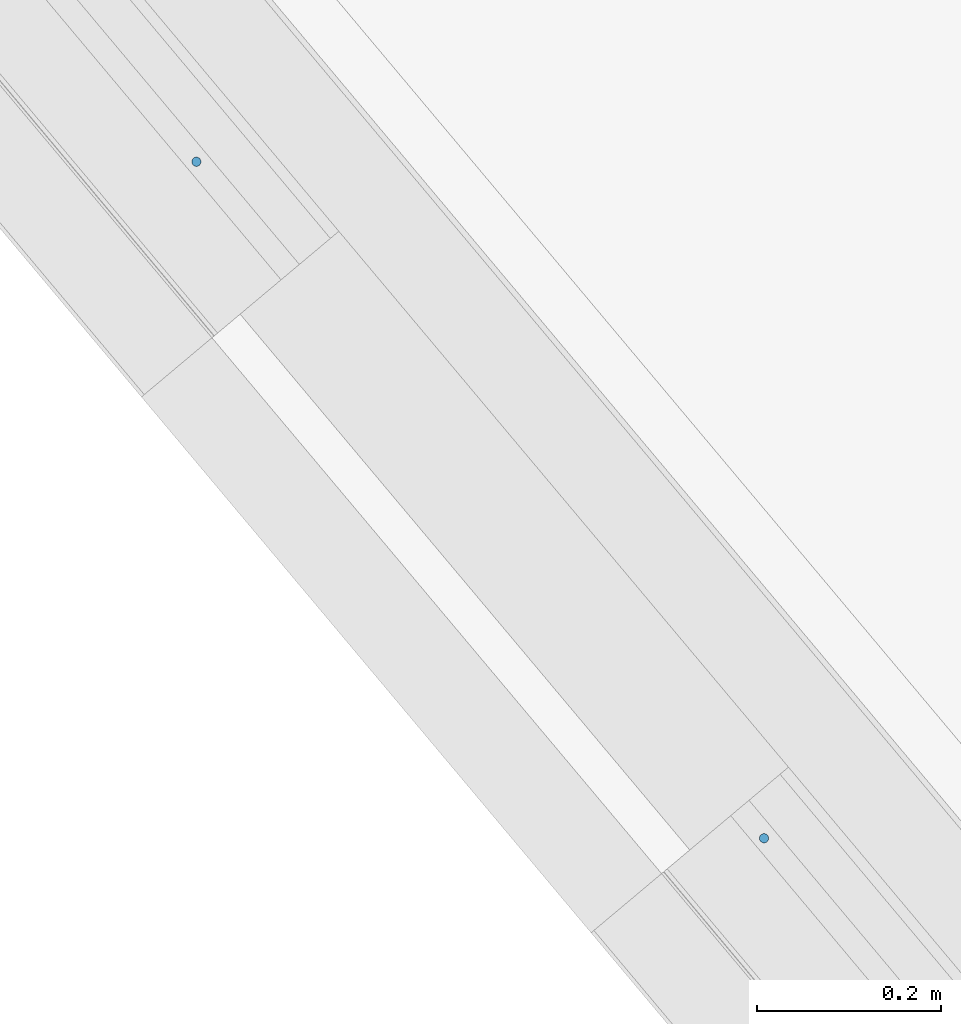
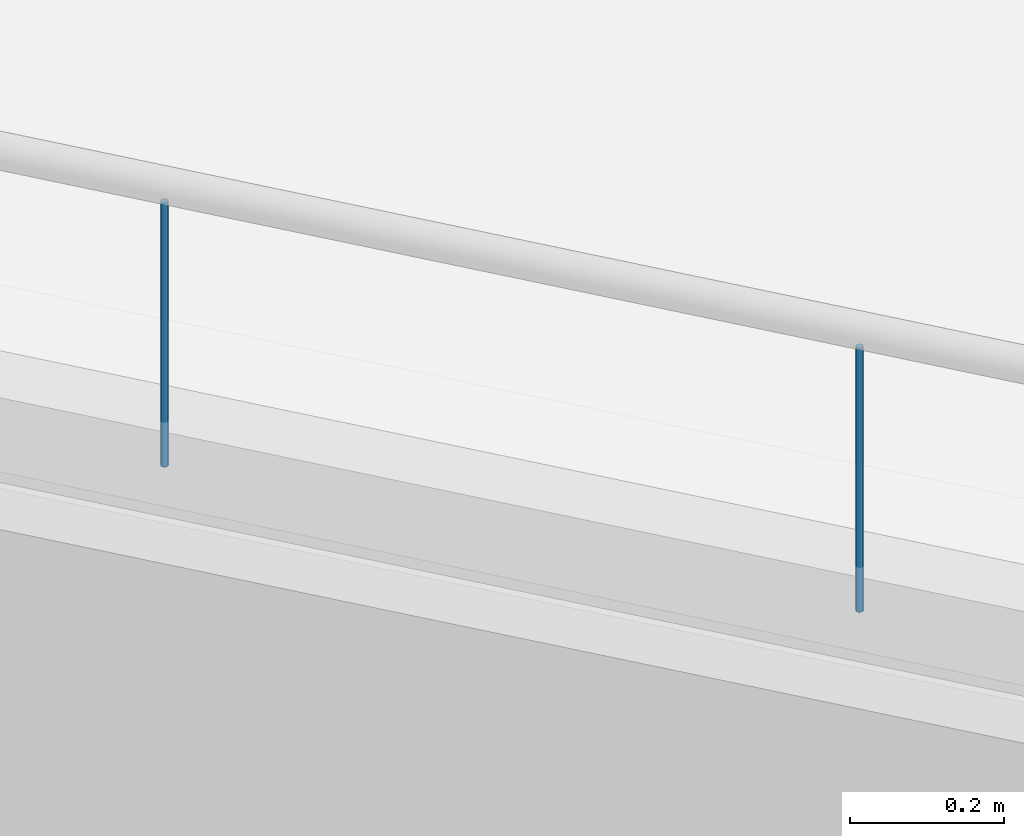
# One storey, part 4 of 321: 2 members, 1 element without a shape of its own.
"""IFC2X3 building model written with IfcOpenShell, lengths in millimetres."""

from ifc_helpers import new_model, entity, si_unit, converted_unit, derived_unit, money_unit, direction, frame, origin_with_axes, place, context, subcontext, project, spatial, faceted_brep, source, transform, mapped, material, type_object, type_shapes, element, aggregate, save


model = new_model("IFC2X3")

# Units and contexts
model_context = context("Model", 3, precision=0.01, world=origin_with_axes(), true_north=direction((0.0, 1.0)))
plan_context = context("Plan", 3, precision=0.01, world=origin_with_axes(), true_north=direction((0.0, 1.0)))
body_context = subcontext(model_context, "Body", "Model", "MODEL_VIEW")
ifc_project = project(units=[si_unit("LENGTHUNIT", "METRE", prefix="MILLI"), si_unit("AREAUNIT", "SQUARE_METRE"), si_unit("VOLUMEUNIT", "CUBIC_METRE"), converted_unit("PLANEANGLEUNIT", "DEGREE", entity("IfcPlaneAngleMeasure", 0.0174532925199), si_unit("PLANEANGLEUNIT", "RADIAN"), dimensions=[0, 0, 0, 0, 0, 0, 0]), money_unit("EUR"), converted_unit("TIMEUNIT", "Year", entity("IfcTimeMeasure", 31556926.0), si_unit("TIMEUNIT", "SECOND"), dimensions=[0, 0, 1, 0, 0, 0, 0]), si_unit("MASSUNIT", "GRAM", prefix="KILO"), si_unit("THERMODYNAMICTEMPERATUREUNIT", "DEGREE_CELSIUS"), si_unit("LUMINOUSINTENSITYUNIT", "LUMEN"), si_unit("ENERGYUNIT", "JOULE", prefix="MEGA"), derived_unit("THERMALCONDUCTANCEUNIT", [(si_unit("POWERUNIT", "WATT"), 1), (si_unit("LENGTHUNIT", "METRE"), -1), (si_unit("THERMODYNAMICTEMPERATUREUNIT", "KELVIN"), -1)]), derived_unit("SPECIFICHEATCAPACITYUNIT", [(si_unit("ENERGYUNIT", "JOULE"), 1), (si_unit("MASSUNIT", "GRAM", prefix="KILO"), -1), (si_unit("THERMODYNAMICTEMPERATUREUNIT", "KELVIN"), -1)]), derived_unit("MASSDENSITYUNIT", [(si_unit("MASSUNIT", "GRAM", prefix="KILO"), 1), (si_unit("VOLUMEUNIT", "CUBIC_METRE"), -1)])], contexts=[model_context, plan_context])

# Site, building, storey
site_placement = place(None, origin_with_axes())
site = spatial("IfcSite", under=ifc_project, at=site_placement, Name="Fortuinstraat Woensdrecht", CompositionType="ELEMENT")
building_placement = place(site_placement, origin_with_axes())
building = spatial("IfcBuilding", under=site, at=building_placement, Name="IKC Fortuna", CompositionType="ELEMENT")
storey_placement = place(building_placement, frame((0.0, 0.0, 4000.0), z_axis=(0.0, 0.0, 1.0), x_axis=(1.0, 0.0, 0.0)))
storey = spatial("IfcBuildingStorey", under=building, at=storey_placement, Name="01 eerste verdieping", CompositionType="ELEMENT", Elevation=4000.0)

# Railing, members
railing_type = type_object("IfcRailingType", Name="Railing Type", PredefinedType="NOTDEFINED")
railing_placement = place(storey_placement, frame((4151.56334028, 3601.06192057, 2353.5), z_axis=(0.0, 0.0, 1.0), x_axis=(1.0, 0.0, 0.0)))
railing = element("IfcRailing", 1, at=railing_placement, inside=storey, type_object=railing_type, Name="34_Reling_Reling vide", PredefinedType="NOTDEFINED")
ifc_material = material(Name="Metaal - Staal AFW")
member_type = type_object("IfcMemberType", Name="IfcMember", PredefinedType="MEMBER")
shared_shape = source(origin_with_axes(), body_context, "Body", "Brep", [
    faceted_brep([(0.0, -5.0, 0.0), (0.868240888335, -4.92403876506, 0.0), (0.868240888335, -4.92403876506, 418.5), (0.0, -5.0, 418.5), (-0.868240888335, -4.92403876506, 0.0), (-1.71010071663, -4.69846310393, 0.0), (-2.5, -4.33012701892, 0.0), (-3.21393804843, -3.83022221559, 0.0), (-3.83022221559, -3.21393804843, 0.0), (-4.33012701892, -2.5, 0.0), (-4.69846310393, -1.71010071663, 0.0), (-4.92403876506, -0.868240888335, 0.0), (-5.0, 0.0, 0.0), (-4.92403876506, 0.868240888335, 0.0), (-4.69846310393, 1.71010071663, 0.0), (-4.33012701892, 2.5, 0.0), (-3.83022221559, 3.21393804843, 0.0), (-3.21393804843, 3.83022221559, 0.0), (-2.5, 4.33012701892, 0.0), (-1.71010071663, 4.69846310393, 0.0), (-0.868240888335, 4.92403876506, 0.0), (0.0, 5.0, 0.0), (0.868240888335, 4.92403876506, 0.0), (1.71010071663, 4.69846310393, 0.0), (2.5, 4.33012701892, 0.0), (3.21393804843, 3.83022221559, 0.0), (3.83022221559, 3.21393804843, 0.0), (4.33012701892, 2.5, 0.0), (4.69846310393, 1.71010071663, 0.0), (4.92403876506, 0.868240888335, 0.0), (5.0, 0.0, 0.0), (4.92403876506, -0.868240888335, 0.0), (4.69846310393, -1.71010071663, 0.0), (4.33012701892, -2.5, 0.0), (3.83022221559, -3.21393804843, 0.0), (3.21393804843, -3.83022221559, 0.0), (2.5, -4.33012701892, 0.0), (1.71010071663, -4.69846310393, 0.0), (1.71010071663, -4.69846310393, 418.5), (2.5, -4.33012701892, 418.5), (3.21393804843, -3.83022221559, 418.5), (3.83022221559, -3.21393804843, 418.5), (4.33012701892, -2.5, 418.5), (4.69846310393, -1.71010071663, 418.5), (4.92403876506, -0.868240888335, 418.5), (5.0, 0.0, 418.5), (4.92403876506, 0.868240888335, 418.5), (4.69846310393, 1.71010071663, 418.5), (4.33012701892, 2.5, 418.5), (3.83022221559, 3.21393804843, 418.5), (3.21393804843, 3.83022221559, 418.5), (2.5, 4.33012701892, 418.5), (1.71010071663, 4.69846310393, 418.5), (0.868240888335, 4.92403876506, 418.5), (0.0, 5.0, 418.5), (-0.868240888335, 4.92403876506, 418.5), (-1.71010071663, 4.69846310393, 418.5), (-2.5, 4.33012701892, 418.5), (-3.21393804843, 3.83022221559, 418.5), (-3.83022221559, 3.21393804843, 418.5), (-4.33012701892, 2.5, 418.5), (-4.69846310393, 1.71010071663, 418.5), (-4.92403876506, 0.868240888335, 418.5), (-5.0, 0.0, 418.5), (-4.92403876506, -0.868240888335, 418.5), (-4.69846310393, -1.71010071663, 418.5), (-4.33012701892, -2.5, 418.5), (-3.83022221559, -3.21393804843, 418.5), (-3.21393804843, -3.83022221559, 418.5), (-2.5, -4.33012701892, 418.5), (-1.71010071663, -4.69846310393, 418.5), (-0.868240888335, -4.92403876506, 418.5)], [[[0, 1, 2, 3]], [[0, 4, 5, 6, 7, 8, 9, 10, 11, 12, 13, 14, 15, 16, 17, 18, 19, 20, 21, 22, 23, 24, 25, 26, 27, 28, 29, 30, 31, 32, 33, 34, 35, 36, 37, 1]], [[1, 37, 38, 2]], [[3, 2, 38, 39, 40, 41, 42, 43, 44, 45, 46, 47, 48, 49, 50, 51, 52, 53, 54, 55, 56, 57, 58, 59, 60, 61, 62, 63, 64, 65, 66, 67, 68, 69, 70, 71]], [[4, 0, 3, 71]], [[5, 4, 71, 70]], [[6, 5, 70, 69]], [[7, 6, 69, 68]], [[8, 7, 68, 67]], [[9, 8, 67, 66]], [[10, 9, 66, 65]], [[11, 10, 65, 64]], [[12, 11, 64, 63]], [[13, 12, 63, 62]], [[14, 13, 62, 61]], [[15, 14, 61, 60]], [[16, 15, 60, 59]], [[17, 16, 59, 58]], [[18, 17, 58, 57]], [[19, 18, 57, 56]], [[20, 19, 56, 55]], [[21, 20, 55, 54]], [[22, 21, 54, 53]], [[23, 22, 53, 52]], [[24, 23, 52, 51]], [[25, 24, 51, 50]], [[26, 25, 50, 49]], [[27, 26, 49, 48]], [[28, 27, 48, 47]], [[29, 28, 47, 46]], [[30, 29, 46, 45]], [[31, 30, 45, 44]], [[32, 31, 44, 43]], [[33, 32, 43, 42]], [[34, 33, 42, 41]], [[35, 34, 41, 40]], [[36, 35, 40, 39]], [[37, 36, 39, 38]]]),
])
type_shapes(member_type, [shared_shape])
member_1_placement = place(railing_placement, frame((6851.15165503, -16822.4877084, -18.5), z_axis=(0.0, 0.0, 1.0), x_axis=(1.0, 0.0, 0.0)))
member_1 = element("IfcMember", 2, at=member_1_placement, type_object=member_type, material=ifc_material, Name="_Onderdeel_Spijlen-x", ObjectType="MEMBER", context=body_context, shape_type="MappedRepresentation", body=[
    mapped(shared_shape, transform((0.0, 0.0, 0.0), x_axis=(-0.766044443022, -0.642787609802, 0.0), y_axis=(0.642787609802, -0.766044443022, 0.0), z_axis=(0.0, 0.0, 1.0))),
])
member_2_placement = place(railing_placement, frame((7467.89239053, -17557.4906954, -18.5), z_axis=(0.0, 0.0, 1.0), x_axis=(1.0, 0.0, 0.0)))
member_2 = element("IfcMember", 3, at=member_2_placement, type_object=member_type, material=ifc_material, Name="_Onderdeel_Spijlen-x", ObjectType="MEMBER", context=body_context, shape_type="MappedRepresentation", body=[
    mapped(shared_shape, transform((0.0, 0.0, 0.0), x_axis=(-0.766044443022, -0.642787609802, 0.0), y_axis=(0.642787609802, -0.766044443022, 0.0), z_axis=(0.0, 0.0, 1.0))),
])
aggregate(railing, [member_1, member_2])

save(model, "model.ifc")
